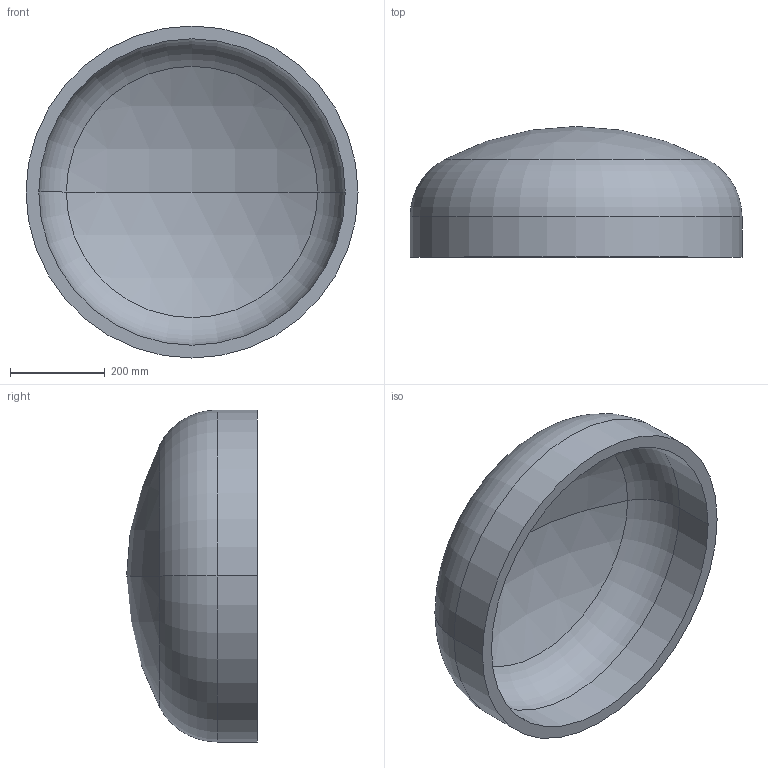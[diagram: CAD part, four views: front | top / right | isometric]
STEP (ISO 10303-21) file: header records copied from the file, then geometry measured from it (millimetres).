
FILE_DESCRIPTION (( 'STEP AP203' ), '1' );
FILE_NAME ('DIN 28013 Korbbogenform_-_Boden DIN 28013 - 700 x 85 - I - s=27.step', '2016-07-01T08:06:04', ( '' ), ( '' ), 'SwSTEP 2.0', 'SolidWorks 2013', '' );
FILE_SCHEMA (( 'CONFIG_CONTROL_DESIGN' ));
Length unit declared in the file: millimetre
Products named in the file (1): DIN 28013 Korbbogenform_-_Boden DIN 28013 - 700 x 85 - I - s=27
Bounding box: 700 x 275.6 x 700 mm (x, y, z)
Volume: 18597696.4 mm3; surface area: 1436219.5 mm2
Topology: 1 solids, 1 shells, 13 faces, 24 edges, 14 vertices
Faces by surface type: torus 4, cylinder 4, sphere 4, plane 1
Entity records: 407 total; most frequent: DIRECTION 72, CARTESIAN_POINT 52, ORIENTED_EDGE 48, AXIS2_PLACEMENT_3D 34, EDGE_CURVE 24, CIRCLE 20, EDGE_LOOP 14, VERTEX_POINT 14
